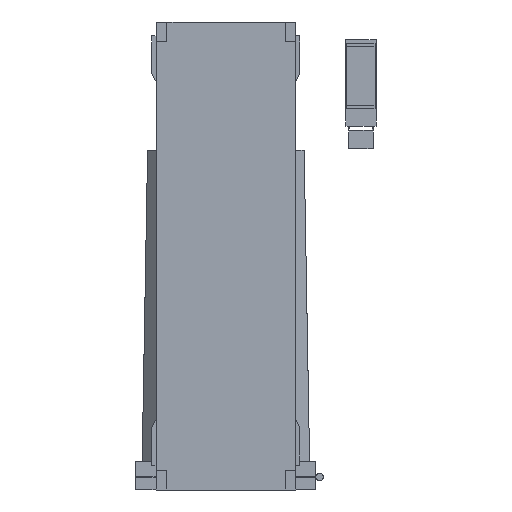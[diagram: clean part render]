
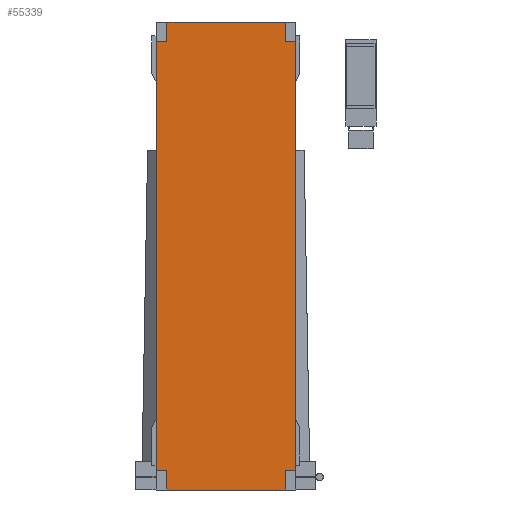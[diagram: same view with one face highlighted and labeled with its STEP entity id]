
A CAD part, front view. The second image highlights one B-rep face of the part: STEP entity #55339.
In plain terms, the highlighted planar face has unit normal (0, -1, 0).
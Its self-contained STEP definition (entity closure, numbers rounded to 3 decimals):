
#18461=DIRECTION('',(0.,0.,-1.));
#18462=VECTOR('',#18461,224.563);
#18463=CARTESIAN_POINT('',(-36.5,-6.,57.));
#18464=LINE('',#18463,#18462);
#18465=DIRECTION('',(-1.,0.,0.));
#18466=VECTOR('',#18465,5.725);
#18467=CARTESIAN_POINT('',(-30.775,-6.,-167.563));
#18468=LINE('',#18467,#18466);
#18469=DIRECTION('',(-1.,0.,0.));
#18470=VECTOR('',#18469,5.275);
#18471=CARTESIAN_POINT('',(36.5,-6.,-167.563));
#18472=LINE('',#18471,#18470);
#18541=DIRECTION('',(0.,0.,-1.));
#18542=VECTOR('',#18541,10.);
#18543=CARTESIAN_POINT('',(-30.775,-6.,-167.563));
#18544=LINE('',#18543,#18542);
#18549=DIRECTION('',(0.,0.,-1.));
#18550=VECTOR('',#18549,10.);
#18551=CARTESIAN_POINT('',(-30.775,-6.,67.));
#18552=LINE('',#18551,#18550);
#18553=DIRECTION('',(0.,0.,-1.));
#18554=VECTOR('',#18553,10.);
#18555=CARTESIAN_POINT('',(31.225,-6.,67.));
#18556=LINE('',#18555,#18554);
#18557=DIRECTION('',(-1.,0.,0.));
#18558=VECTOR('',#18557,5.275);
#18559=CARTESIAN_POINT('',(36.5,-6.,57.));
#18560=LINE('',#18559,#18558);
#18561=DIRECTION('',(0.,0.,-1.));
#18562=VECTOR('',#18561,10.);
#18563=CARTESIAN_POINT('',(31.225,-6.,-167.563));
#18564=LINE('',#18563,#18562);
#18565=DIRECTION('',(-1.,0.,0.));
#18566=VECTOR('',#18565,5.725);
#18567=CARTESIAN_POINT('',(-30.775,-6.,57.));
#18568=LINE('',#18567,#18566);
#18589=DIRECTION('',(-1.,0.,0.));
#18590=VECTOR('',#18589,62.);
#18591=CARTESIAN_POINT('',(31.225,-6.,-177.563));
#18592=LINE('',#18591,#18590);
#18597=DIRECTION('',(0.,0.,-1.));
#18598=VECTOR('',#18597,224.563);
#18599=CARTESIAN_POINT('',(36.5,-6.,57.));
#18600=LINE('',#18599,#18598);
#18641=DIRECTION('',(-1.,0.,0.));
#18642=VECTOR('',#18641,62.);
#18643=CARTESIAN_POINT('',(31.225,-6.,67.));
#18644=LINE('',#18643,#18642);
#24275=CARTESIAN_POINT('',(31.225,-6.,67.));
#24277=VERTEX_POINT('',#24275);
#24278=CARTESIAN_POINT('',(-30.775,-6.,67.));
#24279=VERTEX_POINT('',#24278);
#24283=CARTESIAN_POINT('',(31.225,-6.,-177.563));
#24285=VERTEX_POINT('',#24283);
#24286=CARTESIAN_POINT('',(-30.775,-6.,-177.563));
#24287=VERTEX_POINT('',#24286);
#29618=CARTESIAN_POINT('',(-36.5,-6.,-167.563));
#29619=VERTEX_POINT('',#29618);
#29620=CARTESIAN_POINT('',(-36.5,-6.,57.));
#29621=VERTEX_POINT('',#29620);
#29622=CARTESIAN_POINT('',(36.5,-6.,-167.563));
#29623=VERTEX_POINT('',#29622);
#29624=CARTESIAN_POINT('',(36.5,-6.,57.));
#29625=VERTEX_POINT('',#29624);
#29626=CARTESIAN_POINT('',(31.225,-6.,-167.563));
#29627=VERTEX_POINT('',#29626);
#29628=CARTESIAN_POINT('',(31.225,-6.,57.));
#29629=VERTEX_POINT('',#29628);
#29630=CARTESIAN_POINT('',(-30.775,-6.,-167.563));
#29631=VERTEX_POINT('',#29630);
#29632=CARTESIAN_POINT('',(-30.775,-6.,57.));
#29633=VERTEX_POINT('',#29632);
#55313=CARTESIAN_POINT('',(31.225,-6.,67.));
#55314=DIRECTION('',(0.,1.,0.));
#55315=DIRECTION('',(-1.,0.,0.));
#55316=AXIS2_PLACEMENT_3D('',#55313,#55314,#55315);
#55317=PLANE('',#55316);
#55319=ORIENTED_EDGE('',*,*,#55318,.T.);
#55321=ORIENTED_EDGE('',*,*,#55320,.F.);
#55323=ORIENTED_EDGE('',*,*,#55322,.T.);
#55324=ORIENTED_EDGE('',*,*,#55217,.T.);
#55326=ORIENTED_EDGE('',*,*,#55325,.T.);
#55328=ORIENTED_EDGE('',*,*,#55327,.T.);
#55329=ORIENTED_EDGE('',*,*,#55290,.F.);
#55330=ORIENTED_EDGE('',*,*,#55201,.T.);
#55331=ORIENTED_EDGE('',*,*,#55188,.F.);
#55333=ORIENTED_EDGE('',*,*,#55332,.F.);
#55334=ORIENTED_EDGE('',*,*,#55308,.F.);
#55336=ORIENTED_EDGE('',*,*,#55335,.F.);
#55337=EDGE_LOOP('',(#55319,#55321,#55323,#55324,#55326,#55328,#55329,#55330,
#55331,#55333,#55334,#55336));
#55338=FACE_OUTER_BOUND('',#55337,.F.);
#55339=ADVANCED_FACE('',(#55338),#55317,.F.);
#55188=EDGE_CURVE('',#29621,#29619,#18464,.T.);
#55201=EDGE_CURVE('',#29631,#29619,#18468,.T.);
#55217=EDGE_CURVE('',#29623,#29627,#18472,.T.);
#55290=EDGE_CURVE('',#29631,#24287,#18544,.T.);
#55308=EDGE_CURVE('',#24279,#29633,#18552,.T.);
#55318=EDGE_CURVE('',#24277,#29629,#18556,.T.);
#55320=EDGE_CURVE('',#29625,#29629,#18560,.T.);
#55322=EDGE_CURVE('',#29625,#29623,#18600,.T.);
#55325=EDGE_CURVE('',#29627,#24285,#18564,.T.);
#55327=EDGE_CURVE('',#24285,#24287,#18592,.T.);
#55332=EDGE_CURVE('',#29633,#29621,#18568,.T.);
#55335=EDGE_CURVE('',#24277,#24279,#18644,.T.);
